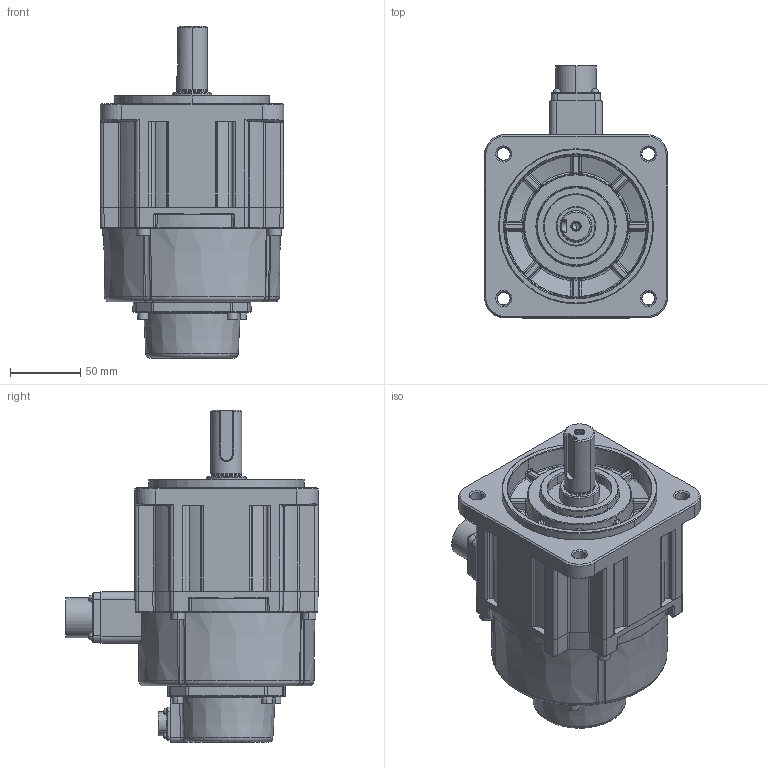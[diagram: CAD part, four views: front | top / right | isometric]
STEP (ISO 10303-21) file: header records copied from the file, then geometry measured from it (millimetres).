
FILE_DESCRIPTION((''),'2;1');
FILE_NAME('ECM-E3M-EX1315SSE_ASM','2022-03-17T16:57:49',('MIO.CHEN'),(''),'CREO PARAMETRIC BY PTC INC, 2017110','CREO PARAMETRIC BY PTC INC, 2017110','');
FILE_SCHEMA(('CONFIG_CONTROL_DESIGN'));
Products named in the file (5): ECM-E3M-EX1315SS1_BRACKET; R_BREACKET_B13SS; CON-4P-F130; ECM-E3M-EX1320SS1_REARCOVER-1; ECM-E3M-EX1315SSE_ASM
Assembly tree (4 placements, depth 2):
  ECM-E3M-EX1315SSE_ASM
    ECM-E3M-EX1315SS1_BRACKET
    R_BREACKET_B13SS
    CON-4P-F130
    ECM-E3M-EX1320SS1_REARCOVER-1
Bounding box: 130 x 178.9 x 235.5 mm (x, y, z)
Volume: 2149135.1 mm3; surface area: 185710 mm2
Topology: 4 solids, 16 shells, 1721 faces, 4535 edges, 2808 vertices
Faces by surface type: plane 635, cylinder 493, bspline 169, cone 140, extrusion 114, torus 102, sphere 66, revolution 2
Entity records: 68631 total; most frequent: CARTESIAN_POINT 28109, ORIENTED_EDGE 8838, DIRECTION 7733, EDGE_CURVE 4443, VERTEX_POINT 2808, AXIS2_PLACEMENT_3D 2782, VECTOR 2167, LINE 2053
